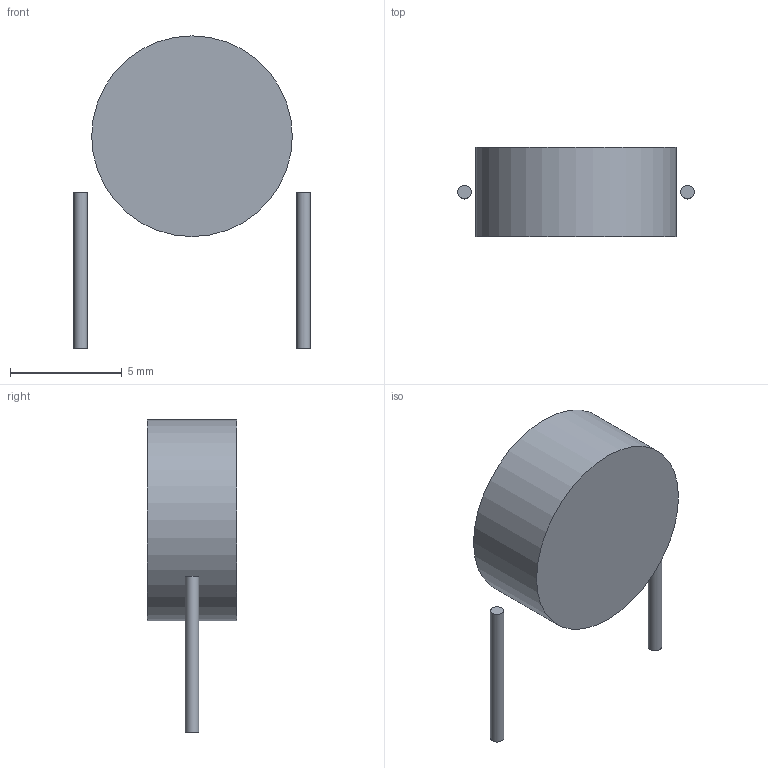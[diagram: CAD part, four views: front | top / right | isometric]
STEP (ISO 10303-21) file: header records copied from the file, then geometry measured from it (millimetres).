
FILE_DESCRIPTION(('Open CASCADE Model'),'2;1');
FILE_NAME('Open CASCADE Shape Model','2026-09-26T00:00:00',('Author'),( 'Open CASCADE'),'Open CASCADE STEP processor 7.9','Open CASCADE 7.9' ,'Unknown');
FILE_SCHEMA(('AUTOMOTIVE_DESIGN { 1 0 10303 214 1 1 1 1 }'));
Length unit declared in the file: millimetre
Products named in the file (4): Open CASCADE STEP translator 7.9 5; Open CASCADE STEP translator 7.9 5.1; Open CASCADE STEP translator 7.9 5.2; Open CASCADE STEP translator 7.9 5.3
Assembly tree (3 placements, depth 2):
  Open CASCADE STEP translator 7.9 5
    Open CASCADE STEP translator 7.9 5.1
    Open CASCADE STEP translator 7.9 5.2
    Open CASCADE STEP translator 7.9 5.3
Bounding box: 10.6 x 4 x 14 mm (x, y, z)
Volume: 258.4 mm3; surface area: 267.9 mm2
Topology: 3 solids, 3 shells, 9 faces, 9 edges, 6 vertices
Faces by surface type: plane 6, cylinder 3
Full cylindrical faces by diameter (mm): 0.6 x2, 9 x1
Entity records: 346 total; most frequent: DIRECTION 59, CARTESIAN_POINT 46, AXIS2_PLACEMENT_3D 19, ORIENTED_EDGE 18, PCURVE 18, DEFINITIONAL_REPRESENTATION 18, LINE 15, VECTOR 15
